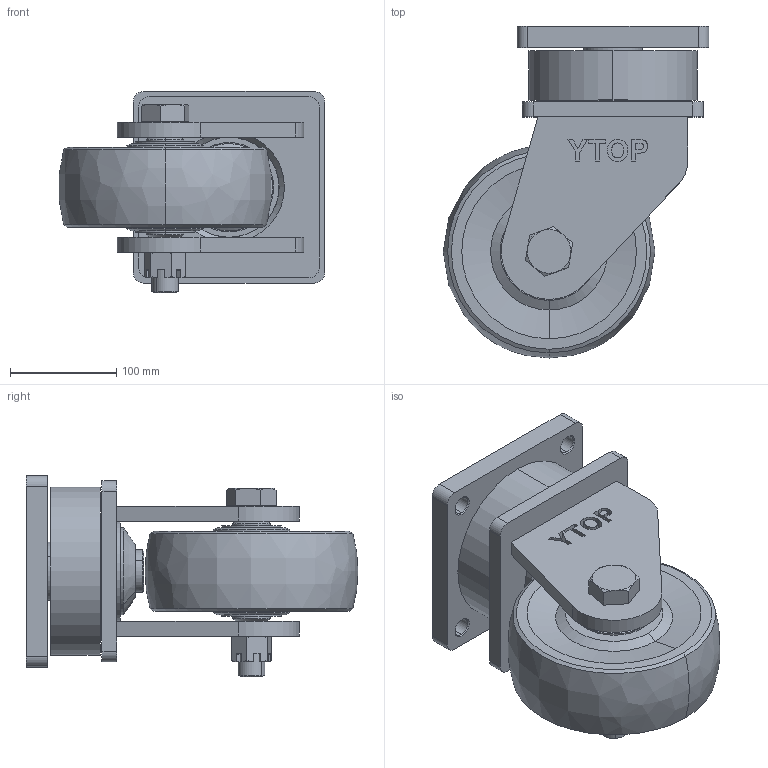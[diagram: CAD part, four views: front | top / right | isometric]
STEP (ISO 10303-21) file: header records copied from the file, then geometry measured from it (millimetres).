
FILE_DESCRIPTION (( 'STEP AP203' ), '1' );
FILE_NAME ('26-200H-75-MC.STEP', '2022-08-20T04:09:09', ( '' ), ( '' ), 'SwSTEP 2.0', 'SolidWorks 2016', '' );
FILE_SCHEMA (( 'CONFIG_CONTROL_DESIGN' ));
Length unit declared in the file: millimetre
Products named in the file (1): 26-200H-75-MC
Bounding box: 249.47 x 311.75 x 189 mm (x, y, z)
Volume: 4944940.1 mm3; surface area: 488879.5 mm2
Topology: 10 solids, 10 shells, 348 faces, 849 edges, 549 vertices
Faces by surface type: plane 151, cylinder 82, cone 77, bspline 38
Entity records: 12644 total; most frequent: CARTESIAN_POINT 4472, ORIENTED_EDGE 1698, DIRECTION 1603, EDGE_CURVE 849, AXIS2_PLACEMENT_3D 570, VERTEX_POINT 549, VECTOR 463, LINE 463
